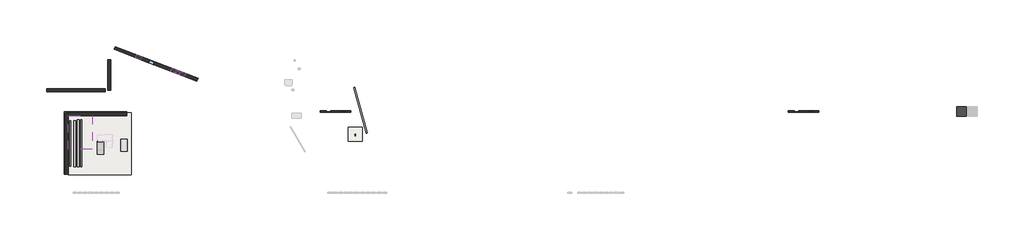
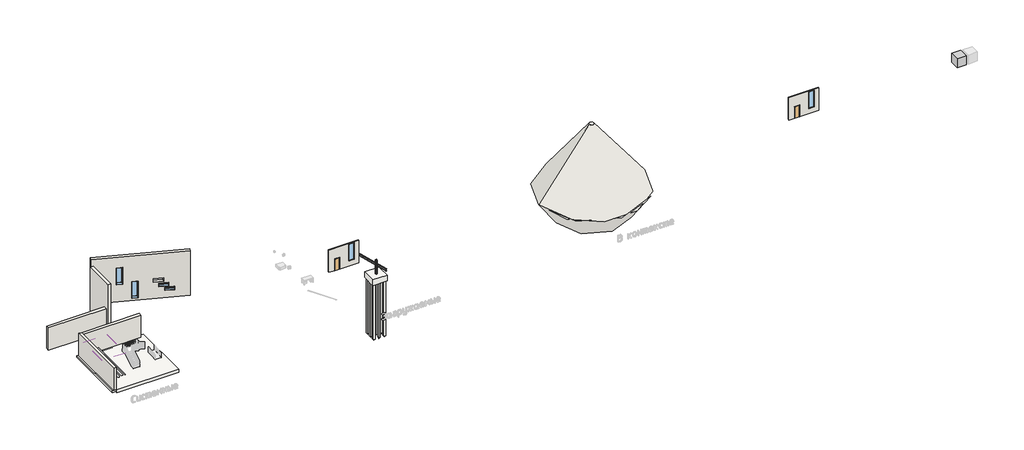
# One storey, part 1 of 6: 11 slabs, 8 walls, 6 windows, 2 beams, 2 doors, 2 footings, 1 column, 1 covering.
"""IFC4 building model written with IfcOpenShell, lengths in millimetres."""

from ifc_helpers import new_model, si_unit, frame, origin, origin_with_axes, place, context, project, spatial, polyline, outline, extrude, faceted_brep, transform, mapped, element, save
from components import specialty_equipment_c6e90f60, w310x38_7_990ea90e, w250x49_1_2da3a2e4, door_0c256fab, wall_f4106ca5, window_82d4f244, window_aa7a5ffd, window_ca35e3a4

model = new_model("IFC4")

# Units and contexts
model_context = context("Model", 3, world=origin())
ifc_project = project(units=[si_unit("LENGTHUNIT", "METRE", prefix="MILLI")], contexts=[model_context])

# Site, building, storey
site = spatial("IfcSite", under=ifc_project)
building = spatial("IfcBuilding", under=site)
storey = spatial("IfcBuildingStorey", under=building, Name="Уровень 1", Elevation=0.0)

# Beams
placement = place(None, origin())
specialty_equipment_shape = specialty_equipment_c6e90f60(model_context)
element("IfcBeam", 1, ObjectType="Кубик_Разрезаемая геометрия : Кубик_Разрезаемая геометрия", at=placement, inside=storey, context=model_context, shape_type="MappedRepresentation", body=[
    mapped(specialty_equipment_shape, transform((136034.2176162, 13888.7510069, 0.0), x_axis=(1.0, 0.0, 0.0), y_axis=(0.0, 1.0, 0.0), z_axis=(0.0, 0.0, 1.0))),
])
w310x38_7_shape = w310x38_7_990ea90e(model_context)
element("IfcBeam", 2, ObjectType="M_W Формы : W310X38.7", at=placement, inside=storey, context=model_context, shape_type="MappedRepresentation", body=[
    mapped(w310x38_7_shape, transform((34482.5607195, 18989.725506, -155.0), x_axis=(0.26617289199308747, -0.9639253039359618, 0.0), y_axis=(0.9639253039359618, 0.26617289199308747, 0.0), z_axis=(0.0, 0.0, 1.0))),
])

# Column
w250x49_1_shape = w250x49_1_2da3a2e4(model_context)
element("IfcColumn", 3, ObjectType="M_W Формы-Колонна : W250X49.1", at=placement, inside=storey, context=model_context, shape_type="MappedRepresentation", body=[
    mapped(w250x49_1_shape, transform((34971.2772597, 9977.0239142, 0.0), x_axis=(1.0, 0.0, 0.0), y_axis=(0.0, 1.0, 0.0), z_axis=(0.0, 0.0, 1.0))),
])

# Covering
element("IfcCovering", 4, ObjectType="ГСП на мет. обрешетке", at=placement, inside=storey, context=model_context, shape_type="SweptSolid", body=[
    extrude(outline(polyline([(-8864.3085886, 13201.1546779), (-8864.3085886, 7626.2111925), (-12864.3085886, 7626.2111925), (-12864.3085886, 13201.1546779), (-8864.3085886, 13201.1546779)])), frame((0.0, 0.0, 2600.0), z_axis=(0.0, 0.0, 1.0), x_axis=(1.0, 0.0, 0.0)), (0.0, 0.0, 1.0), 57.0),
])

# Doors
door_shape = door_0c256fab(model_context)
element("IfcDoor", 5, ObjectType="M_Однопольные-Щитовые : 0762 x 2032 мм", at=placement, inside=storey, context=model_context, shape_type="MappedRepresentation", body=[
    mapped(door_shape, transform((30534.2176162, 13888.7510069, 0.0), x_axis=(-1.0, 0.0, 0.0), y_axis=(0.0, -1.0, 0.0), z_axis=(0.0, 0.0, 1.0))),
])
element("IfcDoor", 6, ObjectType="M_Однопольные-Щитовые : 0762 x 2032 мм", at=placement, inside=storey, context=model_context, shape_type="MappedRepresentation", body=[
    mapped(door_shape, transform((108534.2176162, 13888.7510069, 0.0), x_axis=(-1.0, 0.0, 0.0), y_axis=(0.0, -1.0, 0.0), z_axis=(0.0, 0.0, 1.0))),
])

# Footings
element("IfcFooting", 7, ObjectType="Опорная пята - 900 x 300", at=placement, inside=storey, context=model_context, shape_type="Brep", body=[
    faceted_brep([(-12659.3085886, 3446.1546779, 0.0), (-13559.3085886, 3446.1546779, 0.0), (-13559.3085886, 3446.1546779, -300.0), (-12659.3085886, 3446.1546779, -300.0), (-13559.3085886, 13896.1546779, 0.0), (-12659.3085886, 12996.1546779, 0.0), (-12659.3085886, 13896.1546779, 0.0), (-12659.3085886, 13896.1546779, -300.0), (-12659.3085886, 12996.1546779, -300.0), (-13559.3085886, 13896.1546779, -300.0)], [[[0, 1, 2, 3]], [[4, 1, 0, 5, 6]], [[7, 6, 5, 0, 3, 8]], [[9, 7, 8, 3, 2]], [[4, 9, 2, 1]], [[4, 6, 7, 9]]]),
])
element("IfcFooting", 8, ObjectType="Опорная пята - 900 x 300", at=placement, inside=storey, context=model_context, shape_type="SweptSolid", body=[
    extrude(outline(polyline([(-3109.3085886, 13896.1546779), (-3109.3085886, 12996.1546779), (-12659.3085886, 12996.1546779), (-12659.3085886, 13896.1546779), (-3109.3085886, 13896.1546779)])), frame((0.0, 0.0, -300.0), z_axis=(0.0, 0.0, 1.0), x_axis=(1.0, 0.0, 0.0)), (0.0, 0.0, 1.0), 300.0),
])

# Slabs
element("IfcSlab", 9, ObjectType="Балка фермовая стальная - ВСЧ на легком бетоне ", at=placement, inside=storey, context=model_context, shape_type="SweptSolid", body=[
    extrude(outline(polyline([(-2374.3085886, 13691.1546779), (-2374.3085886, 3346.1546779), (-12864.3085886, 3346.1546779), (-12864.3085886, 13691.1546779), (-2374.3085886, 13691.1546779)])), frame((0.0, 0.0, -510.0), z_axis=(0.0, 0.0, 1.0), x_axis=(1.0, 0.0, 0.0)), (0.0, 0.0, 1.0), 510.0),
])
element("IfcSlab", 10, ObjectType="Оголовок сваи-9 Свая прямоугольного сечения из бетона : 2400 x 2400 x 1000 мм", at=placement, inside=storey, context=model_context, shape_type="Brep", body=[
    faceted_brep([(36171.2772597, 11300.5239142, 0.0), (33771.2772597, 11300.5239142, 0.0), (33771.2772597, 8900.5239142, 0.0), (36171.2772597, 8900.5239142, 0.0), (36171.2772597, 11300.5239142, -1000.0), (36171.2772597, 8900.5239142, -1000.0), (33771.2772597, 8900.5239142, -1000.0), (33771.2772597, 11300.5239142, -1000.0), (33921.2772597, 11150.5239142, -1000.0), (33921.2772597, 10850.5239142, -1000.0), (34221.2772597, 10850.5239142, -1000.0), (34221.2772597, 11150.5239142, -1000.0), (34821.2772597, 11150.5239142, -1000.0), (34821.2772597, 10850.5239142, -1000.0), (35121.2772597, 10850.5239142, -1000.0), (35121.2772597, 11150.5239142, -1000.0), (35721.2772597, 11150.5239142, -1000.0), (35721.2772597, 10850.5239142, -1000.0), (36021.2772597, 10850.5239142, -1000.0), (36021.2772597, 11150.5239142, -1000.0), (33921.2772597, 10250.5239142, -1000.0), (33921.2772597, 9950.5239142, -1000.0), (34221.2772597, 9950.5239142, -1000.0), (34221.2772597, 10250.5239142, -1000.0), (34821.2772597, 10250.5239142, -1000.0), (34821.2772597, 9950.5239142, -1000.0), (35121.2772597, 9950.5239142, -1000.0), (35121.2772597, 10250.5239142, -1000.0), (35721.2772597, 10250.5239142, -1000.0), (35721.2772597, 9950.5239142, -1000.0), (36021.2772597, 9950.5239142, -1000.0), (36021.2772597, 10250.5239142, -1000.0), (33921.2772597, 9350.5239142, -1000.0), (33921.2772597, 9050.5239142, -1000.0), (34221.2772597, 9050.5239142, -1000.0), (34221.2772597, 9350.5239142, -1000.0), (34821.2772597, 9350.5239142, -1000.0), (34821.2772597, 9050.5239142, -1000.0), (35121.2772597, 9050.5239142, -1000.0), (35121.2772597, 9350.5239142, -1000.0), (35721.2772597, 9350.5239142, -1000.0), (35721.2772597, 9050.5239142, -1000.0), (36021.2772597, 9050.5239142, -1000.0), (36021.2772597, 9350.5239142, -1000.0), (33921.2772597, 9350.5239142, -850.0), (34221.2772597, 9350.5239142, -850.0), (34221.2772597, 9050.5239142, -850.0), (33921.2772597, 9050.5239142, -850.0), (35721.2772597, 9350.5239142, -850.0), (36021.2772597, 9350.5239142, -850.0), (36021.2772597, 9050.5239142, -850.0), (35721.2772597, 9050.5239142, -850.0), (35721.2772597, 11150.5239142, -850.0), (36021.2772597, 11150.5239142, -850.0), (36021.2772597, 10850.5239142, -850.0), (35721.2772597, 10850.5239142, -850.0), (33921.2772597, 11150.5239142, -850.0), (34221.2772597, 11150.5239142, -850.0), (34221.2772597, 10850.5239142, -850.0), (33921.2772597, 10850.5239142, -850.0), (33921.2772597, 10250.5239142, -850.0), (34221.2772597, 10250.5239142, -850.0), (34221.2772597, 9950.5239142, -850.0), (33921.2772597, 9950.5239142, -850.0), (35721.2772597, 10250.5239142, -850.0), (36021.2772597, 10250.5239142, -850.0), (36021.2772597, 9950.5239142, -850.0), (35721.2772597, 9950.5239142, -850.0), (34821.2772597, 11150.5239142, -850.0), (35121.2772597, 11150.5239142, -850.0), (35121.2772597, 10850.5239142, -850.0), (34821.2772597, 10850.5239142, -850.0), (34821.2772597, 10250.5239142, -850.0), (35121.2772597, 10250.5239142, -850.0), (35121.2772597, 9950.5239142, -850.0), (34821.2772597, 9950.5239142, -850.0), (34821.2772597, 9350.5239142, -850.0), (35121.2772597, 9350.5239142, -850.0), (35121.2772597, 9050.5239142, -850.0), (34821.2772597, 9050.5239142, -850.0)], [[[0, 1, 2, 3]], [[4, 5, 6, 7], [8, 9, 10, 11], [12, 13, 14, 15], [16, 17, 18, 19], [20, 21, 22, 23], [24, 25, 26, 27], [28, 29, 30, 31], [32, 33, 34, 35], [36, 37, 38, 39], [40, 41, 42, 43]], [[1, 0, 4, 7]], [[2, 1, 7, 6]], [[3, 2, 6, 5]], [[0, 3, 5, 4]], [[44, 45, 46, 47]], [[48, 49, 50, 51]], [[52, 53, 54, 55]], [[56, 57, 58, 59]], [[60, 61, 62, 63]], [[64, 65, 66, 67]], [[68, 69, 70, 71]], [[72, 73, 74, 75]], [[76, 77, 78, 79]], [[56, 59, 9, 8]], [[59, 58, 10, 9]], [[58, 57, 11, 10]], [[57, 56, 8, 11]], [[68, 71, 13, 12]], [[71, 70, 14, 13]], [[70, 69, 15, 14]], [[69, 68, 12, 15]], [[52, 55, 17, 16]], [[55, 54, 18, 17]], [[54, 53, 19, 18]], [[53, 52, 16, 19]], [[60, 63, 21, 20]], [[63, 62, 22, 21]], [[62, 61, 23, 22]], [[61, 60, 20, 23]], [[72, 75, 25, 24]], [[75, 74, 26, 25]], [[74, 73, 27, 26]], [[73, 72, 24, 27]], [[64, 67, 29, 28]], [[67, 66, 30, 29]], [[66, 65, 31, 30]], [[65, 64, 28, 31]], [[44, 47, 33, 32]], [[47, 46, 34, 33]], [[46, 45, 35, 34]], [[45, 44, 32, 35]], [[76, 79, 37, 36]], [[79, 78, 38, 37]], [[78, 77, 39, 38]], [[77, 76, 36, 39]], [[48, 51, 41, 40]], [[51, 50, 42, 41]], [[50, 49, 43, 42]], [[49, 48, 40, 43]]]),
])
element("IfcSlab", 11, ObjectType="Бетонная свая прямоугольного сечения : C100.30-6", at=placement, inside=storey, context=model_context, shape_type="Brep", body=[
    faceted_brep([(34221.2772597, 9350.5239142, -850.0), (33921.2772597, 9350.5239142, -850.0), (33921.2772597, 9050.5239142, -850.0), (34221.2772597, 9050.5239142, -850.0), (34221.2772597, 9350.5239142, -1000.0), (34221.2772597, 9350.5239142, -10850.0), (33921.2772597, 9350.5239142, -10850.0), (33921.2772597, 9350.5239142, -1000.0), (33921.2772597, 9050.5239142, -10850.0), (33921.2772597, 9050.5239142, -1000.0), (34221.2772597, 9050.5239142, -10850.0), (34221.2772597, 9050.5239142, -1000.0), (34071.6998209, 9200.9041593, -11100.0), (34071.6998209, 9200.1041593, -11100.0), (34070.8998209, 9200.1041593, -11100.0), (34070.8998209, 9200.9041593, -11100.0)], [[[0, 1, 2, 3]], [[1, 0, 4, 5, 6, 7]], [[2, 1, 7, 6, 8, 9]], [[3, 2, 9, 8, 10, 11]], [[0, 3, 11, 10, 5, 4]], [[12, 13, 14, 15]], [[5, 10, 13, 12]], [[10, 8, 14, 13]], [[8, 6, 15, 14]], [[6, 5, 12, 15]]]),
])
element("IfcSlab", 12, ObjectType="Бетонная свая прямоугольного сечения : C100.30-6", at=placement, inside=storey, context=model_context, shape_type="Brep", body=[
    faceted_brep([(36021.2772597, 9350.5239142, -850.0), (35721.2772597, 9350.5239142, -850.0), (35721.2772597, 9050.5239142, -850.0), (36021.2772597, 9050.5239142, -850.0), (36021.2772597, 9350.5239142, -1000.0), (36021.2772597, 9350.5239142, -10850.0), (35721.2772597, 9350.5239142, -10850.0), (35721.2772597, 9350.5239142, -1000.0), (35721.2772597, 9050.5239142, -10850.0), (35721.2772597, 9050.5239142, -1000.0), (36021.2772597, 9050.5239142, -10850.0), (36021.2772597, 9050.5239142, -1000.0), (35871.6998209, 9200.9041593, -11100.0), (35871.6998209, 9200.1041593, -11100.0), (35870.8998209, 9200.1041593, -11100.0), (35870.8998209, 9200.9041593, -11100.0)], [[[0, 1, 2, 3]], [[1, 0, 4, 5, 6, 7]], [[2, 1, 7, 6, 8, 9]], [[3, 2, 9, 8, 10, 11]], [[0, 3, 11, 10, 5, 4]], [[12, 13, 14, 15]], [[5, 10, 13, 12]], [[10, 8, 14, 13]], [[8, 6, 15, 14]], [[6, 5, 12, 15]]]),
])
element("IfcSlab", 13, ObjectType="Бетонная свая прямоугольного сечения : C100.30-6", at=placement, inside=storey, context=model_context, shape_type="Brep", body=[
    faceted_brep([(36021.2772597, 11150.5239142, -850.0), (35721.2772597, 11150.5239142, -850.0), (35721.2772597, 10850.5239142, -850.0), (36021.2772597, 10850.5239142, -850.0), (36021.2772597, 11150.5239142, -1000.0), (36021.2772597, 11150.5239142, -10850.0), (35721.2772597, 11150.5239142, -10850.0), (35721.2772597, 11150.5239142, -1000.0), (35721.2772597, 10850.5239142, -10850.0), (35721.2772597, 10850.5239142, -1000.0), (36021.2772597, 10850.5239142, -10850.0), (36021.2772597, 10850.5239142, -1000.0), (35871.6998209, 11000.9041593, -11100.0), (35871.6998209, 11000.1041593, -11100.0), (35870.8998209, 11000.1041593, -11100.0), (35870.8998209, 11000.9041593, -11100.0)], [[[0, 1, 2, 3]], [[1, 0, 4, 5, 6, 7]], [[2, 1, 7, 6, 8, 9]], [[3, 2, 9, 8, 10, 11]], [[0, 3, 11, 10, 5, 4]], [[12, 13, 14, 15]], [[5, 10, 13, 12]], [[10, 8, 14, 13]], [[8, 6, 15, 14]], [[6, 5, 12, 15]]]),
])
element("IfcSlab", 14, ObjectType="Бетонная свая прямоугольного сечения : C100.30-6", at=placement, inside=storey, context=model_context, shape_type="Brep", body=[
    faceted_brep([(34221.2772597, 11150.5239142, -850.0), (33921.2772597, 11150.5239142, -850.0), (33921.2772597, 10850.5239142, -850.0), (34221.2772597, 10850.5239142, -850.0), (34221.2772597, 11150.5239142, -1000.0), (34221.2772597, 11150.5239142, -10850.0), (33921.2772597, 11150.5239142, -10850.0), (33921.2772597, 11150.5239142, -1000.0), (33921.2772597, 10850.5239142, -10850.0), (33921.2772597, 10850.5239142, -1000.0), (34221.2772597, 10850.5239142, -10850.0), (34221.2772597, 10850.5239142, -1000.0), (34071.6998209, 11000.9041593, -11100.0), (34071.6998209, 11000.1041593, -11100.0), (34070.8998209, 11000.1041593, -11100.0), (34070.8998209, 11000.9041593, -11100.0)], [[[0, 1, 2, 3]], [[1, 0, 4, 5, 6, 7]], [[2, 1, 7, 6, 8, 9]], [[3, 2, 9, 8, 10, 11]], [[0, 3, 11, 10, 5, 4]], [[12, 13, 14, 15]], [[5, 10, 13, 12]], [[10, 8, 14, 13]], [[8, 6, 15, 14]], [[6, 5, 12, 15]]]),
])
element("IfcSlab", 15, ObjectType="Бетонная свая прямоугольного сечения : C100.30-6", at=placement, inside=storey, context=model_context, shape_type="Brep", body=[
    faceted_brep([(34221.2772597, 10250.5239142, -850.0), (33921.2772597, 10250.5239142, -850.0), (33921.2772597, 9950.5239142, -850.0), (34221.2772597, 9950.5239142, -850.0), (34221.2772597, 10250.5239142, -1000.0), (34221.2772597, 10250.5239142, -10850.0), (33921.2772597, 10250.5239142, -10850.0), (33921.2772597, 10250.5239142, -1000.0), (33921.2772597, 9950.5239142, -10850.0), (33921.2772597, 9950.5239142, -1000.0), (34221.2772597, 9950.5239142, -10850.0), (34221.2772597, 9950.5239142, -1000.0), (34071.6998209, 10100.9041593, -11100.0), (34071.6998209, 10100.1041593, -11100.0), (34070.8998209, 10100.1041593, -11100.0), (34070.8998209, 10100.9041593, -11100.0)], [[[0, 1, 2, 3]], [[1, 0, 4, 5, 6, 7]], [[2, 1, 7, 6, 8, 9]], [[3, 2, 9, 8, 10, 11]], [[0, 3, 11, 10, 5, 4]], [[12, 13, 14, 15]], [[5, 10, 13, 12]], [[10, 8, 14, 13]], [[8, 6, 15, 14]], [[6, 5, 12, 15]]]),
])
element("IfcSlab", 16, ObjectType="Бетонная свая прямоугольного сечения : C100.30-6", at=placement, inside=storey, context=model_context, shape_type="Brep", body=[
    faceted_brep([(36021.2772597, 10250.5239142, -850.0), (35721.2772597, 10250.5239142, -850.0), (35721.2772597, 9950.5239142, -850.0), (36021.2772597, 9950.5239142, -850.0), (36021.2772597, 10250.5239142, -1000.0), (36021.2772597, 10250.5239142, -10850.0), (35721.2772597, 10250.5239142, -10850.0), (35721.2772597, 10250.5239142, -1000.0), (35721.2772597, 9950.5239142, -10850.0), (35721.2772597, 9950.5239142, -1000.0), (36021.2772597, 9950.5239142, -10850.0), (36021.2772597, 9950.5239142, -1000.0), (35871.6998209, 10100.9041593, -11100.0), (35871.6998209, 10100.1041593, -11100.0), (35870.8998209, 10100.1041593, -11100.0), (35870.8998209, 10100.9041593, -11100.0)], [[[0, 1, 2, 3]], [[1, 0, 4, 5, 6, 7]], [[2, 1, 7, 6, 8, 9]], [[3, 2, 9, 8, 10, 11]], [[0, 3, 11, 10, 5, 4]], [[12, 13, 14, 15]], [[5, 10, 13, 12]], [[10, 8, 14, 13]], [[8, 6, 15, 14]], [[6, 5, 12, 15]]]),
])
element("IfcSlab", 17, ObjectType="Бетонная свая прямоугольного сечения : C100.30-6", at=placement, inside=storey, context=model_context, shape_type="Brep", body=[
    faceted_brep([(35121.2772597, 11150.5239142, -850.0), (34821.2772597, 11150.5239142, -850.0), (34821.2772597, 10850.5239142, -850.0), (35121.2772597, 10850.5239142, -850.0), (35121.2772597, 11150.5239142, -1000.0), (35121.2772597, 11150.5239142, -10850.0), (34821.2772597, 11150.5239142, -10850.0), (34821.2772597, 11150.5239142, -1000.0), (34821.2772597, 10850.5239142, -10850.0), (34821.2772597, 10850.5239142, -1000.0), (35121.2772597, 10850.5239142, -10850.0), (35121.2772597, 10850.5239142, -1000.0), (34971.6998209, 11000.9041593, -11100.0), (34971.6998209, 11000.1041593, -11100.0), (34970.8998209, 11000.1041593, -11100.0), (34970.8998209, 11000.9041593, -11100.0)], [[[0, 1, 2, 3]], [[1, 0, 4, 5, 6, 7]], [[2, 1, 7, 6, 8, 9]], [[3, 2, 9, 8, 10, 11]], [[0, 3, 11, 10, 5, 4]], [[12, 13, 14, 15]], [[5, 10, 13, 12]], [[10, 8, 14, 13]], [[8, 6, 15, 14]], [[6, 5, 12, 15]]]),
])
element("IfcSlab", 18, ObjectType="Бетонная свая прямоугольного сечения : C100.30-6", at=placement, inside=storey, context=model_context, shape_type="Brep", body=[
    faceted_brep([(35121.2772597, 10250.5239142, -850.0), (34821.2772597, 10250.5239142, -850.0), (34821.2772597, 9950.5239142, -850.0), (35121.2772597, 9950.5239142, -850.0), (35121.2772597, 10250.5239142, -1000.0), (35121.2772597, 10250.5239142, -10850.0), (34821.2772597, 10250.5239142, -10850.0), (34821.2772597, 10250.5239142, -1000.0), (34821.2772597, 9950.5239142, -10850.0), (34821.2772597, 9950.5239142, -1000.0), (35121.2772597, 9950.5239142, -10850.0), (35121.2772597, 9950.5239142, -1000.0), (34971.6998209, 10100.9041593, -11100.0), (34971.6998209, 10100.1041593, -11100.0), (34970.8998209, 10100.1041593, -11100.0), (34970.8998209, 10100.9041593, -11100.0)], [[[0, 1, 2, 3]], [[1, 0, 4, 5, 6, 7]], [[2, 1, 7, 6, 8, 9]], [[3, 2, 9, 8, 10, 11]], [[0, 3, 11, 10, 5, 4]], [[12, 13, 14, 15]], [[5, 10, 13, 12]], [[10, 8, 14, 13]], [[8, 6, 15, 14]], [[6, 5, 12, 15]]]),
])
element("IfcSlab", 19, ObjectType="Бетонная свая прямоугольного сечения : C100.30-6", at=placement, inside=storey, context=model_context, shape_type="Brep", body=[
    faceted_brep([(35121.2772597, 9350.5239142, -850.0), (34821.2772597, 9350.5239142, -850.0), (34821.2772597, 9050.5239142, -850.0), (35121.2772597, 9050.5239142, -850.0), (35121.2772597, 9350.5239142, -1000.0), (35121.2772597, 9350.5239142, -10850.0), (34821.2772597, 9350.5239142, -10850.0), (34821.2772597, 9350.5239142, -1000.0), (34821.2772597, 9050.5239142, -10850.0), (34821.2772597, 9050.5239142, -1000.0), (35121.2772597, 9050.5239142, -10850.0), (35121.2772597, 9050.5239142, -1000.0), (34971.6998209, 9200.9041593, -11100.0), (34971.6998209, 9200.1041593, -11100.0), (34970.8998209, 9200.1041593, -11100.0), (34970.8998209, 9200.9041593, -11100.0)], [[[0, 1, 2, 3]], [[1, 0, 4, 5, 6, 7]], [[2, 1, 7, 6, 8, 9]], [[3, 2, 9, 8, 10, 11]], [[0, 3, 11, 10, 5, 4]], [[12, 13, 14, 15]], [[5, 10, 13, 12]], [[10, 8, 14, 13]], [[8, 6, 15, 14]], [[6, 5, 12, 15]]]),
])

# Walls
element("IfcWall", 20, ObjectType="Наружный - Кирпич на бетонном блоке", at=placement, inside=storey, context=model_context, shape_type="Brep", body=[
    faceted_brep([(-13354.3085886, 13691.1546779, 0.0), (-13354.3085886, 3446.1546779, 0.0), (-13354.3085886, 3446.1546779, 4000.0), (-13354.3085886, 13691.1546779, 4000.0), (-12864.3085886, 13691.1546779, 0.0), (-12864.3085886, 13691.1546779, 4000.0), (-12864.3085886, 13201.1546779, 4000.0), (-12864.3085886, 3446.1546779, 4000.0), (-12864.3085886, 3446.1546779, 0.0), (-12864.3085886, 13201.1546779, 0.0)], [[[0, 1, 2, 3]], [[4, 5, 6, 7, 8, 9]], [[1, 0, 4, 9, 8]], [[2, 1, 8, 7]], [[3, 2, 7, 6, 5]], [[0, 3, 5, 4]]]),
])
element("IfcWall", 21, ObjectType="Наружный - Кирпич на бетонном блоке", at=placement, inside=storey, context=model_context, shape_type="SweptSolid", body=[
    extrude(outline(polyline([(-12864.3085886, 13691.1546779), (-3109.3085886, 13691.1546779), (-3109.3085886, 13201.1546779), (-12864.3085886, 13201.1546779), (-12864.3085886, 13691.1546779)])), origin_with_axes(), (0.0, 0.0, 1.0), 4000.0),
])
element("IfcWall", 22, ObjectType="Типовой - 200мм", at=placement, inside=storey, context=model_context, shape_type="SweptSolid", body=[
    extrude(outline(polyline([(0.0, 29134.2176162), (0.0, 30153.2176162), (2032.0, 30153.2176162), (2032.0, 30915.2176162), (0.0, 30915.2176162), (0.0, 34234.2176162), (4000.0, 34234.2176162), (4000.0, 29134.2176162), (0.0, 29134.2176162)]), holes=[polyline([(915.0, 33391.7176162), (915.0, 32476.7176162), (3915.0, 32476.7176162), (3915.0, 33391.7176162), (915.0, 33391.7176162)])]), frame((0.0, 13788.7510069, 0.0), z_axis=(0.0, 1.0, 0.0), x_axis=(0.0, 0.0, 1.0)), (0.0, 0.0, 1.0), 200.0),
])
element("IfcWall", 23, ObjectType="Типовой - 200мм", at=placement, inside=storey, context=model_context, shape_type="SweptSolid", body=[
    extrude(outline(polyline([(0.0, 107134.2176162), (0.0, 108153.2176162), (2032.0, 108153.2176162), (2032.0, 108915.2176162), (0.0, 108915.2176162), (0.0, 112234.2176162), (4000.0, 112234.2176162), (4000.0, 107134.2176162), (0.0, 107134.2176162)]), holes=[polyline([(915.0, 111391.7176162), (915.0, 110476.7176162), (3915.0, 110476.7176162), (3915.0, 111391.7176162), (915.0, 111391.7176162)])]), frame((0.0, 13788.7510069, 0.0), z_axis=(0.0, 1.0, 0.0), x_axis=(0.0, 0.0, 1.0)), (0.0, 0.0, 1.0), 200.0),
])
element("IfcWall", 24, ObjectType="Типовой - 250мм", at=placement, inside=storey, context=model_context, shape_type="SweptSolid", body=[
    extrude(outline(polyline([(-6689.9380949, 17168.744804), (-16489.9380949, 17168.744804), (-16489.9380949, 17688.744804), (-6689.9380949, 17688.744804), (-6689.9380949, 17168.744804)])), origin_with_axes(), (0.0, 0.0, 1.0), 4000.0),
])
element("IfcWall", 25, ObjectType="Типовой - 250мм", at=placement, inside=storey, context=model_context, shape_type="SweptSolid", body=[
    extrude(outline(polyline([(-5749.3085886, 22528.744804), (-5749.3085886, 17428.744804), (-6269.3085886, 17428.744804), (-6269.3085886, 22528.744804), (-5749.3085886, 22528.744804)])), origin_with_axes(), (0.0, 0.0, 1.0), 8000.0),
])
element("IfcWall", 26, ObjectType="Типовой - 250мм", at=placement, inside=storey, context=model_context, shape_type="SweptSolid", body=[
    extrude(outline(polyline([(0.0, 0.0), (14800.0, 0.0), (14800.0, -8000.0), (0.0, -8000.0), (0.0, 0.0)]), holes=[polyline([(3842.5000001, -3070.0), (3842.5000001, -6070.0), (4757.5000001, -6070.0), (4757.5000001, -3070.0), (3842.5000001, -3070.0)]), polyline([(6142.5, -400.0), (6142.5, -3400.0), (7057.5, -3400.0), (7057.5, -400.0), (6142.5, -400.0)]), polyline([(9350.0, -2915.0), (9350.0, -3525.0), (10850.0, -3525.0), (10850.0, -2915.0), (9350.0, -2915.0)]), polyline([(11050.0, -1275.60575), (11050.0, -1885.60575), (12550.0000001, -1885.60575), (12550.0000001, -1275.60575), (11050.0, -1275.60575)]), polyline([(10150.0000001, -2042.5570036), (10150.0000001, -2652.5570036), (11650.0, -2652.5570036), (11650.0, -2042.5570036), (10150.0000001, -2042.5570036)])]), frame((-5243.7551313, 24240.0943642, 0.0), z_axis=(0.35836794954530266, 0.9335804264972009, 0.0), x_axis=(0.9335804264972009, -0.35836794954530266, 0.0)), (0.0, 0.0, 1.0), 520.0),
])
wall_shape = wall_f4106ca5(model_context)
element("IfcWall", 27, ObjectType="Стены 1 : Стены 1", at=placement, inside=storey, context=model_context, shape_type="MappedRepresentation", body=[
    mapped(wall_shape, transform((0.0, 0.0, 0.0), x_axis=(1.0, 0.0, 0.0), y_axis=(0.0, 1.0, 0.0), z_axis=(0.0, 0.0, 1.0))),
])

# Windows
window_shape = window_82d4f244(model_context)
element("IfcWindow", 28, ObjectType="M_Неподвижный : 0915 x 1830 мм", at=placement, inside=storey, context=model_context, shape_type="MappedRepresentation", body=[
    mapped(window_shape, transform((32934.2176162, 13901.7510069, 610.0), x_axis=(-1.0, 0.0, 0.0), y_axis=(0.0, -1.0, 0.0), z_axis=(0.0, 0.0, 1.0))),
])
element("IfcWindow", 29, ObjectType="M_Неподвижный : 0915 x 1830 мм", at=placement, inside=storey, context=model_context, shape_type="MappedRepresentation", body=[
    mapped(window_shape, transform((110934.2176162, 13901.7510069, 610.0), x_axis=(-1.0, 0.0, 0.0), y_axis=(0.0, -1.0, 0.0), z_axis=(0.0, 0.0, 1.0))),
])
window_2_shape = window_aa7a5ffd(model_context)
element("IfcWindow", 30, ObjectType="M_Неподвижный : 0915 x 1830 мм", at=placement, inside=storey, context=model_context, shape_type="MappedRepresentation", body=[
    mapped(window_2_shape, transform((-1140.8424138, 22929.7065465, 2765.0), x_axis=(0.9335804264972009, -0.35836794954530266, 0.0), y_axis=(0.35836794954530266, 0.9335804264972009, 0.0), z_axis=(0.0, 0.0, 1.0))),
])
element("IfcWindow", 31, ObjectType="M_Неподвижный : 0915 x 1830 мм", at=placement, inside=storey, context=model_context, shape_type="MappedRepresentation", body=[
    mapped(window_2_shape, transform((1006.3925672, 22105.4602626, 95.0), x_axis=(0.9335804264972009, -0.35836794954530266, 0.0), y_axis=(0.35836794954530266, 0.9335804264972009, 0.0), z_axis=(0.0, 0.0, 1.0))),
])
window_3_shape = window_ca35e3a4(model_context)
element("IfcWindow", 32, ObjectType="M_Неподвижный : 0915 x 0610 мм", at=placement, inside=storey, context=model_context, shape_type="MappedRepresentation", body=[
    mapped(window_3_shape, transform((5861.0107849, 20241.9469249, 360.60575), x_axis=(0.9335804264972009, -0.35836794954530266, 0.0), y_axis=(0.35836794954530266, 0.9335804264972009, 0.0), z_axis=(0.0, 0.0, 1.0))),
])
element("IfcWindow", 33, ObjectType="M_Неподвижный : 0915 x 0610 мм", at=placement, inside=storey, context=model_context, shape_type="MappedRepresentation", body=[
    mapped(window_3_shape, transform((5020.7884011, 20564.4780795, 1127.5570036), x_axis=(0.9335804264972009, -0.35836794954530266, 0.0), y_axis=(0.35836794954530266, 0.9335804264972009, 0.0), z_axis=(0.0, 0.0, 1.0))),
])

save(model, "model.ifc")
